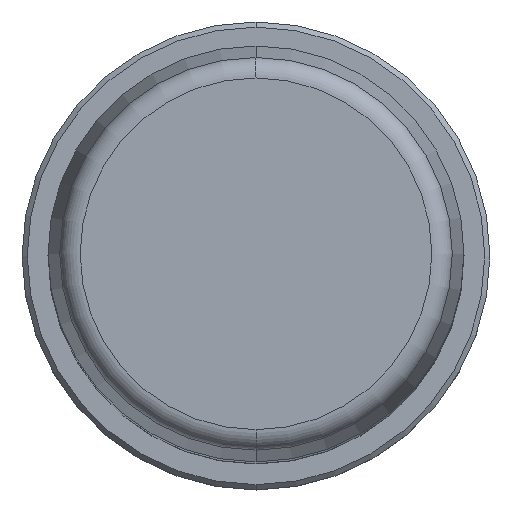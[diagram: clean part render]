
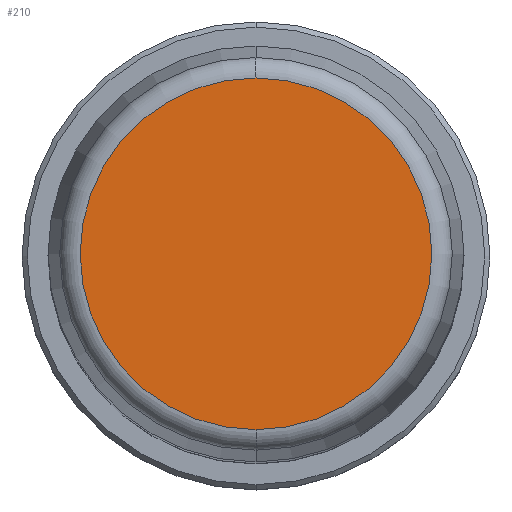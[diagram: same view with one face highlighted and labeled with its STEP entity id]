
A CAD part, top view. The second image highlights one B-rep face of the part: STEP entity #210.
In plain terms, the highlighted planar face has unit normal (0, 0, 1).
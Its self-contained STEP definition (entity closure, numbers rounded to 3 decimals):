
#1=CARTESIAN_POINT('',(0.,0.,125.));
#2=DIRECTION('',(0.,0.,-1.));
#3=DIRECTION('',(0.,-1.,0.));
#4=AXIS2_PLACEMENT_3D('',#1,#2,#3);
#6=CARTESIAN_POINT('',(0.,0.,125.));
#7=DIRECTION('',(0.,0.,-1.));
#8=DIRECTION('',(0.,1.,0.));
#9=AXIS2_PLACEMENT_3D('',#6,#7,#8);
#183=CARTESIAN_POINT('',(0.,-16.911,125.));
#184=CARTESIAN_POINT('',(0.,16.911,125.));
#185=VERTEX_POINT('',#183);
#186=VERTEX_POINT('',#184);
#199=CARTESIAN_POINT('',(0.,0.,125.));
#200=DIRECTION('',(0.,0.,1.));
#201=DIRECTION('',(0.,-1.,0.));
#202=AXIS2_PLACEMENT_3D('',#199,#200,#201);
#203=PLANE('',#202);
#205=ORIENTED_EDGE('',*,*,#204,.T.);
#207=ORIENTED_EDGE('',*,*,#206,.T.);
#208=EDGE_LOOP('',(#205,#207));
#209=FACE_OUTER_BOUND('',#208,.F.);
#210=ADVANCED_FACE('',(#209),#203,.T.);
#5=CIRCLE('',#4,16.911);
#10=CIRCLE('',#9,16.911);
#204=EDGE_CURVE('',#185,#186,#5,.T.);
#206=EDGE_CURVE('',#186,#185,#10,.T.);
